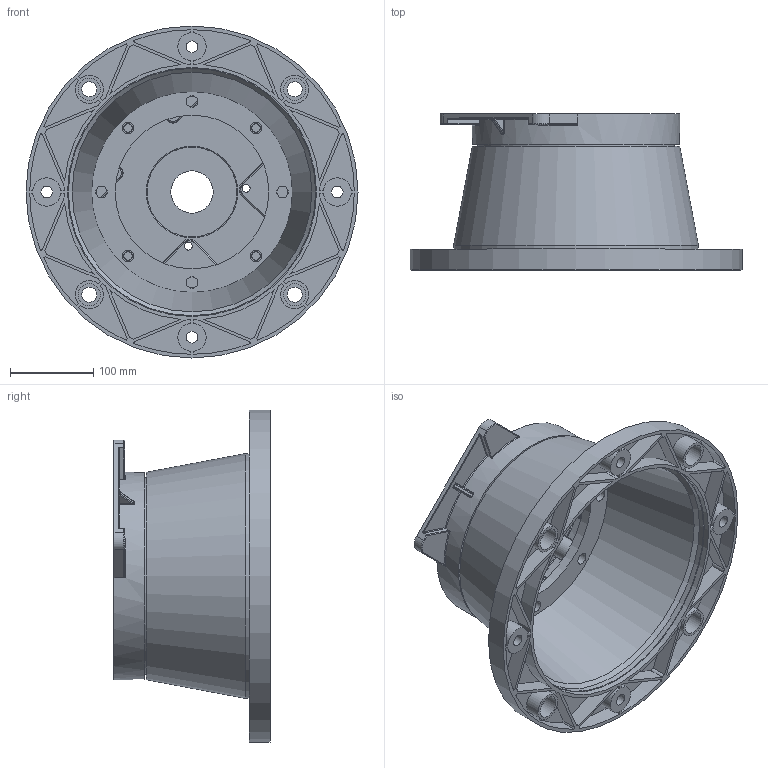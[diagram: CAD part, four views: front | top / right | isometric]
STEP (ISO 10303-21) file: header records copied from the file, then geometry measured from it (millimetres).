
FILE_DESCRIPTION(('STEP AP203'),'2;1');
FILE_NAME('LSE401.stp','2005-07-21T17:53:00',(''),(''),'9.0.0','THINKDESIGN','');
FILE_SCHEMA(('CONFIG_CONTROL_DESIGN'));
Length unit declared in the file: millimetre
Bounding box: 400 x 188 x 400 mm (x, y, z)
Volume: 2032516.2 mm3; surface area: 709578.1 mm2
Topology: 3 solids, 3 shells, 444 faces, 1179 edges, 768 vertices
Faces by surface type: cylinder 182, plane 140, bspline 122
Full cylindrical faces by diameter (mm): 9.5 x4, 10.25 x4, 14 x12, 18 x4, 27 x4, 50.8 x1, 108.5 x1, 110 x2, 185 x1, 237 x2, 250 x1, 295 x1, 298 x1, 300 x1, 400 x1
Entity records: 21433 total; most frequent: CARTESIAN_POINT 10316, ORIENTED_EDGE 2334, DIRECTION 2250, EDGE_CURVE 1167, AXIS2_PLACEMENT_3D 867, VERTEX_POINT 768, CIRCLE 545, EDGE_LOOP 529
